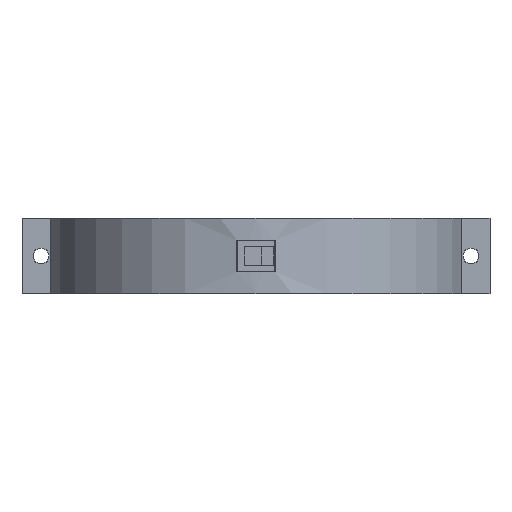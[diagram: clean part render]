
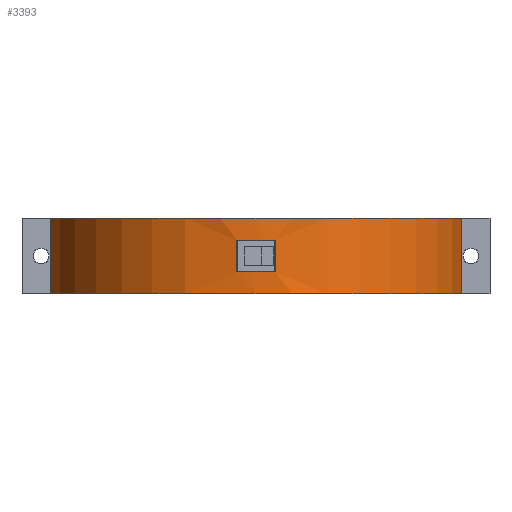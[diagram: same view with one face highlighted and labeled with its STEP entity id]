
A CAD part, front view. The second image highlights one B-rep face of the part: STEP entity #3393.
In plain terms, the highlighted cylindrical face has radius 33 mm (diameter 66 mm), a partial arc.
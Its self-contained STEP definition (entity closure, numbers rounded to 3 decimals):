
#2061 = PLANE('',#2062);
#2062 = AXIS2_PLACEMENT_3D('',#2063,#2064,#2065);
#2063 = CARTESIAN_POINT('',(0.,0.,46.));
#2064 = DIRECTION('',(0.,0.,1.));
#2065 = DIRECTION('',(1.,0.,-0.));
#2074 = VERTEX_POINT('',#2075);
#2075 = CARTESIAN_POINT('',(32.486,-5.8,46.));
#2300 = PLANE('',#2301);
#2301 = AXIS2_PLACEMENT_3D('',#2302,#2303,#2304);
#2302 = CARTESIAN_POINT('',(31.,-5.8,34.));
#2303 = DIRECTION('',(-0.,1.,0.));
#2304 = DIRECTION('',(0.,0.,1.));
#2427 = VERTEX_POINT('',#2428);
#2428 = CARTESIAN_POINT('',(-32.486,-5.8,46.));
#2449 = EDGE_CURVE('',#2427,#2074,#2450,.T.);
#2450 = SURFACE_CURVE('',#2451,(#2456,#2463),.PCURVE_S1.);
#2451 = CIRCLE('',#2452,33.);
#2452 = AXIS2_PLACEMENT_3D('',#2453,#2454,#2455);
#2453 = CARTESIAN_POINT('',(0.,0.,46.));
#2454 = DIRECTION('',(0.,0.,1.));
#2455 = DIRECTION('',(1.,0.,-0.));
#2456 = PCURVE('',#2061,#2457);
#2457 = DEFINITIONAL_REPRESENTATION('',(#2458),#2462);
#2458 = CIRCLE('',#2459,33.);
#2459 = AXIS2_PLACEMENT_2D('',#2460,#2461);
#2460 = CARTESIAN_POINT('',(0.,0.));
#2461 = DIRECTION('',(1.,0.));
#2462 = ( GEOMETRIC_REPRESENTATION_CONTEXT(2) 
PARAMETRIC_REPRESENTATION_CONTEXT() REPRESENTATION_CONTEXT('2D SPACE',''
  ) );
#2463 = PCURVE('',#2464,#2469);
#2464 = CYLINDRICAL_SURFACE('',#2465,33.);
#2465 = AXIS2_PLACEMENT_3D('',#2466,#2467,#2468);
#2466 = CARTESIAN_POINT('',(0.,0.,34.));
#2467 = DIRECTION('',(0.,0.,1.));
#2468 = DIRECTION('',(1.,0.,-0.));
#2469 = DEFINITIONAL_REPRESENTATION('',(#2470),#2474);
#2470 = LINE('',#2471,#2472);
#2471 = CARTESIAN_POINT('',(0.,12.));
#2472 = VECTOR('',#2473,1.);
#2473 = DIRECTION('',(1.,0.));
#2474 = ( GEOMETRIC_REPRESENTATION_CONTEXT(2) 
PARAMETRIC_REPRESENTATION_CONTEXT() REPRESENTATION_CONTEXT('2D SPACE',''
  ) );
#2669 = PLANE('',#2670);
#2670 = AXIS2_PLACEMENT_3D('',#2671,#2672,#2673);
#2671 = CARTESIAN_POINT('',(0.,0.,34.));
#2672 = DIRECTION('',(0.,0.,1.));
#2673 = DIRECTION('',(1.,0.,-0.));
#2728 = VERTEX_POINT('',#2729);
#2729 = CARTESIAN_POINT('',(32.486,-5.8,34.));
#2845 = EDGE_CURVE('',#2728,#2074,#2846,.T.);
#2846 = SURFACE_CURVE('',#2847,(#2851,#2857),.PCURVE_S1.);
#2847 = LINE('',#2848,#2849);
#2848 = CARTESIAN_POINT('',(32.486,-5.8,34.));
#2849 = VECTOR('',#2850,1.);
#2850 = DIRECTION('',(0.,0.,1.));
#2851 = PCURVE('',#2300,#2852);
#2852 = DEFINITIONAL_REPRESENTATION('',(#2853),#2856);
#2853 = B_SPLINE_CURVE_WITH_KNOTS('',1,(#2854,#2855),.UNSPECIFIED.,.F.,
  .F.,(2,2),(0.,12.),.PIECEWISE_BEZIER_KNOTS.);
#2854 = CARTESIAN_POINT('',(0.,1.486));
#2855 = CARTESIAN_POINT('',(12.,1.486));
#2856 = ( GEOMETRIC_REPRESENTATION_CONTEXT(2) 
PARAMETRIC_REPRESENTATION_CONTEXT() REPRESENTATION_CONTEXT('2D SPACE',''
  ) );
#2857 = PCURVE('',#2464,#2858);
#2858 = DEFINITIONAL_REPRESENTATION('',(#2859),#2862);
#2859 = B_SPLINE_CURVE_WITH_KNOTS('',1,(#2860,#2861),.UNSPECIFIED.,.F.,
  .F.,(2,2),(0.,12.),.PIECEWISE_BEZIER_KNOTS.);
#2860 = CARTESIAN_POINT('',(6.107,0.));
#2861 = CARTESIAN_POINT('',(6.107,12.));
#2862 = ( GEOMETRIC_REPRESENTATION_CONTEXT(2) 
PARAMETRIC_REPRESENTATION_CONTEXT() REPRESENTATION_CONTEXT('2D SPACE',''
  ) );
#3393 = ADVANCED_FACE('',(#3394,#3446),#2464,.T.);
#3394 = FACE_BOUND('',#3395,.T.);
#3395 = EDGE_LOOP('',(#3396,#3397,#3423,#3445));
#3396 = ORIENTED_EDGE('',*,*,#2449,.F.);
#3397 = ORIENTED_EDGE('',*,*,#3398,.F.);
#3398 = EDGE_CURVE('',#3399,#2427,#3401,.T.);
#3399 = VERTEX_POINT('',#3400);
#3400 = CARTESIAN_POINT('',(-32.486,-5.8,34.));
#3401 = SURFACE_CURVE('',#3402,(#3406,#3412),.PCURVE_S1.);
#3402 = LINE('',#3403,#3404);
#3403 = CARTESIAN_POINT('',(-32.486,-5.8,34.));
#3404 = VECTOR('',#3405,1.);
#3405 = DIRECTION('',(0.,0.,1.));
#3406 = PCURVE('',#2464,#3407);
#3407 = DEFINITIONAL_REPRESENTATION('',(#3408),#3411);
#3408 = B_SPLINE_CURVE_WITH_KNOTS('',1,(#3409,#3410),.UNSPECIFIED.,.F.,
  .F.,(2,2),(0.,12.),.PIECEWISE_BEZIER_KNOTS.);
#3409 = CARTESIAN_POINT('',(3.318,0.));
#3410 = CARTESIAN_POINT('',(3.318,12.));
#3411 = ( GEOMETRIC_REPRESENTATION_CONTEXT(2) 
PARAMETRIC_REPRESENTATION_CONTEXT() REPRESENTATION_CONTEXT('2D SPACE',''
  ) );
#3412 = PCURVE('',#3413,#3418);
#3413 = PLANE('',#3414);
#3414 = AXIS2_PLACEMENT_3D('',#3415,#3416,#3417);
#3415 = CARTESIAN_POINT('',(-37.,-5.8,34.));
#3416 = DIRECTION('',(-0.,1.,0.));
#3417 = DIRECTION('',(0.,0.,1.));
#3418 = DEFINITIONAL_REPRESENTATION('',(#3419),#3422);
#3419 = B_SPLINE_CURVE_WITH_KNOTS('',1,(#3420,#3421),.UNSPECIFIED.,.F.,
  .F.,(2,2),(0.,12.),.PIECEWISE_BEZIER_KNOTS.);
#3420 = CARTESIAN_POINT('',(0.,4.514));
#3421 = CARTESIAN_POINT('',(12.,4.514));
#3422 = ( GEOMETRIC_REPRESENTATION_CONTEXT(2) 
PARAMETRIC_REPRESENTATION_CONTEXT() REPRESENTATION_CONTEXT('2D SPACE',''
  ) );
#3423 = ORIENTED_EDGE('',*,*,#3424,.T.);
#3424 = EDGE_CURVE('',#3399,#2728,#3425,.T.);
#3425 = SURFACE_CURVE('',#3426,(#3431,#3438),.PCURVE_S1.);
#3426 = CIRCLE('',#3427,33.);
#3427 = AXIS2_PLACEMENT_3D('',#3428,#3429,#3430);
#3428 = CARTESIAN_POINT('',(0.,0.,34.));
#3429 = DIRECTION('',(0.,0.,1.));
#3430 = DIRECTION('',(1.,0.,-0.));
#3431 = PCURVE('',#2464,#3432);
#3432 = DEFINITIONAL_REPRESENTATION('',(#3433),#3437);
#3433 = LINE('',#3434,#3435);
#3434 = CARTESIAN_POINT('',(0.,0.));
#3435 = VECTOR('',#3436,1.);
#3436 = DIRECTION('',(1.,0.));
#3437 = ( GEOMETRIC_REPRESENTATION_CONTEXT(2) 
PARAMETRIC_REPRESENTATION_CONTEXT() REPRESENTATION_CONTEXT('2D SPACE',''
  ) );
#3438 = PCURVE('',#2669,#3439);
#3439 = DEFINITIONAL_REPRESENTATION('',(#3440),#3444);
#3440 = CIRCLE('',#3441,33.);
#3441 = AXIS2_PLACEMENT_2D('',#3442,#3443);
#3442 = CARTESIAN_POINT('',(0.,0.));
#3443 = DIRECTION('',(1.,0.));
#3444 = ( GEOMETRIC_REPRESENTATION_CONTEXT(2) 
PARAMETRIC_REPRESENTATION_CONTEXT() REPRESENTATION_CONTEXT('2D SPACE',''
  ) );
#3445 = ORIENTED_EDGE('',*,*,#2845,.T.);
#3446 = FACE_BOUND('',#3447,.T.);
#3447 = EDGE_LOOP('',(#3448,#3479,#3505,#3534));
#3448 = ORIENTED_EDGE('',*,*,#3449,.F.);
#3449 = EDGE_CURVE('',#3450,#3452,#3454,.T.);
#3450 = VERTEX_POINT('',#3451);
#3451 = CARTESIAN_POINT('',(-3.02,-32.862,37.48));
#3452 = VERTEX_POINT('',#3453);
#3453 = CARTESIAN_POINT('',(3.02,-32.862,37.48));
#3454 = SURFACE_CURVE('',#3455,(#3460,#3467),.PCURVE_S1.);
#3455 = CIRCLE('',#3456,33.);
#3456 = AXIS2_PLACEMENT_3D('',#3457,#3458,#3459);
#3457 = CARTESIAN_POINT('',(0.,0.,37.48));
#3458 = DIRECTION('',(0.,0.,1.));
#3459 = DIRECTION('',(1.,0.,-0.));
#3460 = PCURVE('',#2464,#3461);
#3461 = DEFINITIONAL_REPRESENTATION('',(#3462),#3466);
#3462 = LINE('',#3463,#3464);
#3463 = CARTESIAN_POINT('',(0.,3.48));
#3464 = VECTOR('',#3465,1.);
#3465 = DIRECTION('',(1.,0.));
#3466 = ( GEOMETRIC_REPRESENTATION_CONTEXT(2) 
PARAMETRIC_REPRESENTATION_CONTEXT() REPRESENTATION_CONTEXT('2D SPACE',''
  ) );
#3467 = PCURVE('',#3468,#3473);
#3468 = PLANE('',#3469);
#3469 = AXIS2_PLACEMENT_3D('',#3470,#3471,#3472);
#3470 = CARTESIAN_POINT('',(-3.02,-35.,37.48));
#3471 = DIRECTION('',(0.,0.,1.));
#3472 = DIRECTION('',(1.,0.,-0.));
#3473 = DEFINITIONAL_REPRESENTATION('',(#3474),#3478);
#3474 = CIRCLE('',#3475,33.);
#3475 = AXIS2_PLACEMENT_2D('',#3476,#3477);
#3476 = CARTESIAN_POINT('',(3.02,35.));
#3477 = DIRECTION('',(1.,0.));
#3478 = ( GEOMETRIC_REPRESENTATION_CONTEXT(2) 
PARAMETRIC_REPRESENTATION_CONTEXT() REPRESENTATION_CONTEXT('2D SPACE',''
  ) );
#3479 = ORIENTED_EDGE('',*,*,#3480,.T.);
#3480 = EDGE_CURVE('',#3450,#3481,#3483,.T.);
#3481 = VERTEX_POINT('',#3482);
#3482 = CARTESIAN_POINT('',(-3.02,-32.862,42.52));
#3483 = SURFACE_CURVE('',#3484,(#3488,#3494),.PCURVE_S1.);
#3484 = LINE('',#3485,#3486);
#3485 = CARTESIAN_POINT('',(-3.02,-32.862,34.));
#3486 = VECTOR('',#3487,1.);
#3487 = DIRECTION('',(0.,0.,1.));
#3488 = PCURVE('',#2464,#3489);
#3489 = DEFINITIONAL_REPRESENTATION('',(#3490),#3493);
#3490 = B_SPLINE_CURVE_WITH_KNOTS('',1,(#3491,#3492),.UNSPECIFIED.,.F.,
  .F.,(2,2),(2.976,9.024),.PIECEWISE_BEZIER_KNOTS.);
#3491 = CARTESIAN_POINT('',(4.621,2.976));
#3492 = CARTESIAN_POINT('',(4.621,9.024));
#3493 = ( GEOMETRIC_REPRESENTATION_CONTEXT(2) 
PARAMETRIC_REPRESENTATION_CONTEXT() REPRESENTATION_CONTEXT('2D SPACE',''
  ) );
#3494 = PCURVE('',#3495,#3500);
#3495 = PLANE('',#3496);
#3496 = AXIS2_PLACEMENT_3D('',#3497,#3498,#3499);
#3497 = CARTESIAN_POINT('',(-3.02,-35.,37.48));
#3498 = DIRECTION('',(1.,0.,-0.));
#3499 = DIRECTION('',(0.,0.,1.));
#3500 = DEFINITIONAL_REPRESENTATION('',(#3501),#3504);
#3501 = B_SPLINE_CURVE_WITH_KNOTS('',1,(#3502,#3503),.UNSPECIFIED.,.F.,
  .F.,(2,2),(2.976,9.024),.PIECEWISE_BEZIER_KNOTS.);
#3502 = CARTESIAN_POINT('',(-0.504,-2.138));
#3503 = CARTESIAN_POINT('',(5.544,-2.138));
#3504 = ( GEOMETRIC_REPRESENTATION_CONTEXT(2) 
PARAMETRIC_REPRESENTATION_CONTEXT() REPRESENTATION_CONTEXT('2D SPACE',''
  ) );
#3505 = ORIENTED_EDGE('',*,*,#3506,.T.);
#3506 = EDGE_CURVE('',#3481,#3507,#3509,.T.);
#3507 = VERTEX_POINT('',#3508);
#3508 = CARTESIAN_POINT('',(3.02,-32.862,42.52));
#3509 = SURFACE_CURVE('',#3510,(#3515,#3522),.PCURVE_S1.);
#3510 = CIRCLE('',#3511,33.);
#3511 = AXIS2_PLACEMENT_3D('',#3512,#3513,#3514);
#3512 = CARTESIAN_POINT('',(0.,0.,42.52));
#3513 = DIRECTION('',(0.,0.,1.));
#3514 = DIRECTION('',(1.,0.,-0.));
#3515 = PCURVE('',#2464,#3516);
#3516 = DEFINITIONAL_REPRESENTATION('',(#3517),#3521);
#3517 = LINE('',#3518,#3519);
#3518 = CARTESIAN_POINT('',(0.,8.52));
#3519 = VECTOR('',#3520,1.);
#3520 = DIRECTION('',(1.,0.));
#3521 = ( GEOMETRIC_REPRESENTATION_CONTEXT(2) 
PARAMETRIC_REPRESENTATION_CONTEXT() REPRESENTATION_CONTEXT('2D SPACE',''
  ) );
#3522 = PCURVE('',#3523,#3528);
#3523 = PLANE('',#3524);
#3524 = AXIS2_PLACEMENT_3D('',#3525,#3526,#3527);
#3525 = CARTESIAN_POINT('',(-3.02,-35.,42.52));
#3526 = DIRECTION('',(0.,0.,1.));
#3527 = DIRECTION('',(1.,0.,-0.));
#3528 = DEFINITIONAL_REPRESENTATION('',(#3529),#3533);
#3529 = CIRCLE('',#3530,33.);
#3530 = AXIS2_PLACEMENT_2D('',#3531,#3532);
#3531 = CARTESIAN_POINT('',(3.02,35.));
#3532 = DIRECTION('',(1.,0.));
#3533 = ( GEOMETRIC_REPRESENTATION_CONTEXT(2) 
PARAMETRIC_REPRESENTATION_CONTEXT() REPRESENTATION_CONTEXT('2D SPACE',''
  ) );
#3534 = ORIENTED_EDGE('',*,*,#3535,.F.);
#3535 = EDGE_CURVE('',#3452,#3507,#3536,.T.);
#3536 = SURFACE_CURVE('',#3537,(#3541,#3547),.PCURVE_S1.);
#3537 = LINE('',#3538,#3539);
#3538 = CARTESIAN_POINT('',(3.02,-32.862,34.));
#3539 = VECTOR('',#3540,1.);
#3540 = DIRECTION('',(0.,0.,1.));
#3541 = PCURVE('',#2464,#3542);
#3542 = DEFINITIONAL_REPRESENTATION('',(#3543),#3546);
#3543 = B_SPLINE_CURVE_WITH_KNOTS('',1,(#3544,#3545),.UNSPECIFIED.,.F.,
  .F.,(2,2),(2.976,9.024),.PIECEWISE_BEZIER_KNOTS.);
#3544 = CARTESIAN_POINT('',(4.804,2.976));
#3545 = CARTESIAN_POINT('',(4.804,9.024));
#3546 = ( GEOMETRIC_REPRESENTATION_CONTEXT(2) 
PARAMETRIC_REPRESENTATION_CONTEXT() REPRESENTATION_CONTEXT('2D SPACE',''
  ) );
#3547 = PCURVE('',#3548,#3553);
#3548 = PLANE('',#3549);
#3549 = AXIS2_PLACEMENT_3D('',#3550,#3551,#3552);
#3550 = CARTESIAN_POINT('',(3.02,-35.,37.48));
#3551 = DIRECTION('',(1.,0.,-0.));
#3552 = DIRECTION('',(0.,0.,1.));
#3553 = DEFINITIONAL_REPRESENTATION('',(#3554),#3557);
#3554 = B_SPLINE_CURVE_WITH_KNOTS('',1,(#3555,#3556),.UNSPECIFIED.,.F.,
  .F.,(2,2),(2.976,9.024),.PIECEWISE_BEZIER_KNOTS.);
#3555 = CARTESIAN_POINT('',(-0.504,-2.138));
#3556 = CARTESIAN_POINT('',(5.544,-2.138));
#3557 = ( GEOMETRIC_REPRESENTATION_CONTEXT(2) 
PARAMETRIC_REPRESENTATION_CONTEXT() REPRESENTATION_CONTEXT('2D SPACE',''
  ) );
